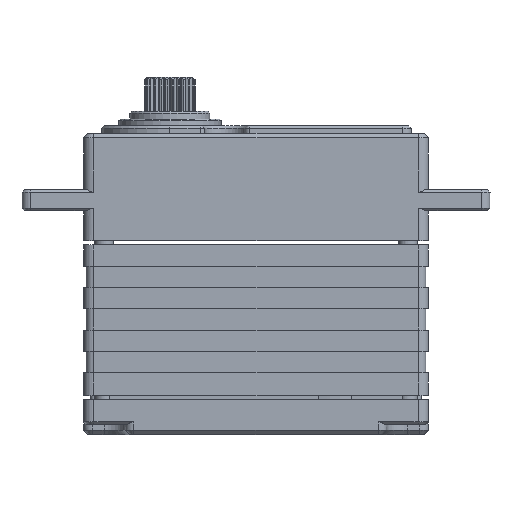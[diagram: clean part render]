
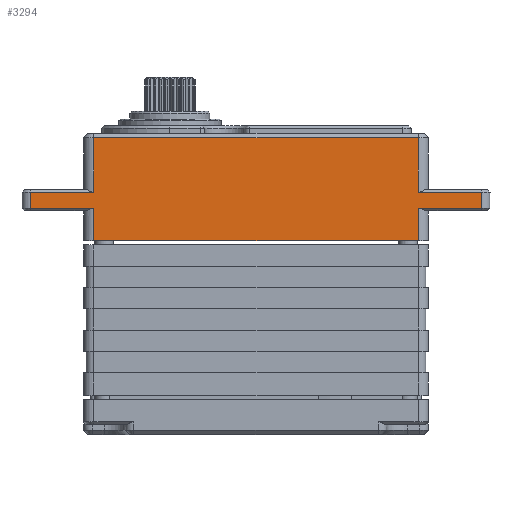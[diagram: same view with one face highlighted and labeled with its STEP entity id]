
A CAD part, front view. The second image highlights one B-rep face of the part: STEP entity #3294.
In plain terms, the highlighted planar face has unit normal (0, -1, 0).
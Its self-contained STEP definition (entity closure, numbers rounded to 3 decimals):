
#330 = ORIENTED_EDGE ( 'NONE', *, *, #6360, .T. ) ;
#429 = EDGE_CURVE ( 'NONE', #9991, #2769, #6759, .T. ) ;
#444 = DIRECTION ( 'NONE',  ( 0., 0., -1. ) ) ;
#959 = VERTEX_POINT ( 'NONE', #6655 ) ;
#1285 = LINE ( 'NONE', #8983, #14636 ) ;
#1566 = EDGE_CURVE ( 'NONE', #959, #20856, #6770, .T. ) ;
#1824 = VECTOR ( 'NONE', #2623, 1000. ) ;
#1878 = VECTOR ( 'NONE', #2352, 1000. ) ;
#1884 = ORIENTED_EDGE ( 'NONE', *, *, #21318, .T. ) ;
#1892 = CARTESIAN_POINT ( 'NONE',  ( -105.731, 8.857, 13.15 ) ) ;
#2199 = VECTOR ( 'NONE', #14861, 1000. ) ;
#2313 = VECTOR ( 'NONE', #3374, 1000. ) ;
#2352 = DIRECTION ( 'NONE',  ( 1., 0., 0. ) ) ;
#2365 = ORIENTED_EDGE ( 'NONE', *, *, #16958, .T. ) ;
#2586 = DIRECTION ( 'NONE',  ( 0., 0., -1. ) ) ;
#2623 = DIRECTION ( 'NONE',  ( 0., 0., 1. ) ) ;
#2769 = VERTEX_POINT ( 'NONE', #16762 ) ;
#2927 = DIRECTION ( 'NONE',  ( 0., 0., 1. ) ) ;
#3294 = ADVANCED_FACE ( 'NONE', ( #3873 ), #13227, .T. ) ;
#3374 = DIRECTION ( 'NONE',  ( -1., 0., 0. ) ) ;
#3832 = LINE ( 'NONE', #6196, #2199 ) ;
#3873 = FACE_OUTER_BOUND ( 'NONE', #8952, .T. ) ;
#4122 = ORIENTED_EDGE ( 'NONE', *, *, #14378, .F. ) ;
#4161 = EDGE_CURVE ( 'NONE', #8135, #9991, #10888, .T. ) ;
#4167 = ORIENTED_EDGE ( 'NONE', *, *, #1566, .T. ) ;
#5369 = VECTOR ( 'NONE', #8548, 1000. ) ;
#5864 = ORIENTED_EDGE ( 'NONE', *, *, #14599, .F. ) ;
#6114 = CARTESIAN_POINT ( 'NONE',  ( -52.731, 8.857, 7.45 ) ) ;
#6166 = LINE ( 'NONE', #6348, #1824 ) ;
#6196 = CARTESIAN_POINT ( 'NONE',  ( -79.231, 8.857, 13.15 ) ) ;
#6348 = CARTESIAN_POINT ( 'NONE',  ( -98.281, 8.857, 9.361 ) ) ;
#6354 = LINE ( 'NONE', #14986, #7155 ) ;
#6360 = EDGE_CURVE ( 'NONE', #14416, #8135, #3832, .T. ) ;
#6444 = LINE ( 'NONE', #15603, #5369 ) ;
#6655 = CARTESIAN_POINT ( 'NONE',  ( -60.181, 8.857, 11.25 ) ) ;
#6759 = LINE ( 'NONE', #12308, #16541 ) ;
#6760 = AXIS2_PLACEMENT_3D ( 'NONE', #6114, #13083, #2927 ) ;
#6770 = LINE ( 'NONE', #7739, #1878 ) ;
#6779 = VERTEX_POINT ( 'NONE', #12861 ) ;
#7155 = VECTOR ( 'NONE', #16620, 1000. ) ;
#7739 = CARTESIAN_POINT ( 'NONE',  ( -79.231, 8.857, 11.25 ) ) ;
#8135 = VERTEX_POINT ( 'NONE', #10529 ) ;
#8548 = DIRECTION ( 'NONE',  ( -1., 0., 0. ) ) ;
#8726 = CARTESIAN_POINT ( 'NONE',  ( -60.181, 8.857, 13.5 ) ) ;
#8773 = DIRECTION ( 'NONE',  ( 0., 0., 1. ) ) ;
#8856 = CARTESIAN_POINT ( 'NONE',  ( -79.231, 8.857, 7.45 ) ) ;
#8952 = EDGE_LOOP ( 'NONE', ( #18460, #4122, #5864, #15363, #4167, #2365, #330, #20033, #14027, #12403, #1884, #10715 ) ) ;
#8983 = CARTESIAN_POINT ( 'NONE',  ( -105.731, 8.857, 13.5 ) ) ;
#9684 = DIRECTION ( 'NONE',  ( 0., 0., 1. ) ) ;
#9991 = VERTEX_POINT ( 'NONE', #21731 ) ;
#10195 = EDGE_CURVE ( 'NONE', #19579, #13307, #6354, .T. ) ;
#10215 = VERTEX_POINT ( 'NONE', #11771 ) ;
#10424 = VERTEX_POINT ( 'NONE', #1892 ) ;
#10529 = CARTESIAN_POINT ( 'NONE',  ( -60.181, 8.857, 13.15 ) ) ;
#10547 = CARTESIAN_POINT ( 'NONE',  ( -60.181, 8.857, 13.5 ) ) ;
#10715 = ORIENTED_EDGE ( 'NONE', *, *, #15189, .T. ) ;
#10888 = LINE ( 'NONE', #8726, #14941 ) ;
#11620 = CARTESIAN_POINT ( 'NONE',  ( -98.281, 8.857, 11.25 ) ) ;
#11771 = CARTESIAN_POINT ( 'NONE',  ( -60.181, 8.857, 7.45 ) ) ;
#12308 = CARTESIAN_POINT ( 'NONE',  ( -79.231, 8.857, 19.55 ) ) ;
#12394 = CARTESIAN_POINT ( 'NONE',  ( -105.731, 8.857, 11.25 ) ) ;
#12403 = ORIENTED_EDGE ( 'NONE', *, *, #19692, .T. ) ;
#12861 = CARTESIAN_POINT ( 'NONE',  ( -98.281, 8.857, 13.15 ) ) ;
#13064 = CARTESIAN_POINT ( 'NONE',  ( -52.731, 8.857, 13.5 ) ) ;
#13083 = DIRECTION ( 'NONE',  ( 0., -1., 0. ) ) ;
#13227 = PLANE ( 'NONE',  #6760 ) ;
#13307 = VERTEX_POINT ( 'NONE', #11620 ) ;
#13977 = DIRECTION ( 'NONE',  ( 0., 0., 1. ) ) ;
#14027 = ORIENTED_EDGE ( 'NONE', *, *, #429, .T. ) ;
#14230 = LINE ( 'NONE', #20065, #18260 ) ;
#14378 = EDGE_CURVE ( 'NONE', #16348, #13307, #6166, .T. ) ;
#14416 = VERTEX_POINT ( 'NONE', #15395 ) ;
#14568 = EDGE_CURVE ( 'NONE', #10215, #959, #15145, .T. ) ;
#14599 = EDGE_CURVE ( 'NONE', #10215, #16348, #21383, .T. ) ;
#14636 = VECTOR ( 'NONE', #444, 1000. ) ;
#14861 = DIRECTION ( 'NONE',  ( -1., 0., 0. ) ) ;
#14941 = VECTOR ( 'NONE', #13977, 1000. ) ;
#14986 = CARTESIAN_POINT ( 'NONE',  ( -79.231, 8.857, 11.25 ) ) ;
#15145 = LINE ( 'NONE', #10547, #19199 ) ;
#15189 = EDGE_CURVE ( 'NONE', #10424, #19579, #1285, .T. ) ;
#15363 = ORIENTED_EDGE ( 'NONE', *, *, #14568, .T. ) ;
#15395 = CARTESIAN_POINT ( 'NONE',  ( -52.731, 8.857, 13.15 ) ) ;
#15603 = CARTESIAN_POINT ( 'NONE',  ( -79.231, 8.857, 13.15 ) ) ;
#16348 = VERTEX_POINT ( 'NONE', #21625 ) ;
#16541 = VECTOR ( 'NONE', #20906, 1000. ) ;
#16620 = DIRECTION ( 'NONE',  ( 1., 0., 0. ) ) ;
#16762 = CARTESIAN_POINT ( 'NONE',  ( -98.281, 8.857, 19.55 ) ) ;
#16958 = EDGE_CURVE ( 'NONE', #20856, #14416, #21273, .T. ) ;
#17710 = CARTESIAN_POINT ( 'NONE',  ( -52.731, 8.857, 11.25 ) ) ;
#18260 = VECTOR ( 'NONE', #2586, 1000. ) ;
#18460 = ORIENTED_EDGE ( 'NONE', *, *, #10195, .T. ) ;
#19199 = VECTOR ( 'NONE', #8773, 1000. ) ;
#19348 = VECTOR ( 'NONE', #9684, 1000. ) ;
#19579 = VERTEX_POINT ( 'NONE', #12394 ) ;
#19692 = EDGE_CURVE ( 'NONE', #2769, #6779, #14230, .T. ) ;
#20033 = ORIENTED_EDGE ( 'NONE', *, *, #4161, .T. ) ;
#20065 = CARTESIAN_POINT ( 'NONE',  ( -98.281, 8.857, 13.5 ) ) ;
#20856 = VERTEX_POINT ( 'NONE', #17710 ) ;
#20906 = DIRECTION ( 'NONE',  ( -1., 0., 0. ) ) ;
#21273 = LINE ( 'NONE', #13064, #19348 ) ;
#21318 = EDGE_CURVE ( 'NONE', #6779, #10424, #6444, .T. ) ;
#21383 = LINE ( 'NONE', #8856, #2313 ) ;
#21625 = CARTESIAN_POINT ( 'NONE',  ( -98.281, 8.857, 7.45 ) ) ;
#21731 = CARTESIAN_POINT ( 'NONE',  ( -60.181, 8.857, 19.55 ) ) ;
